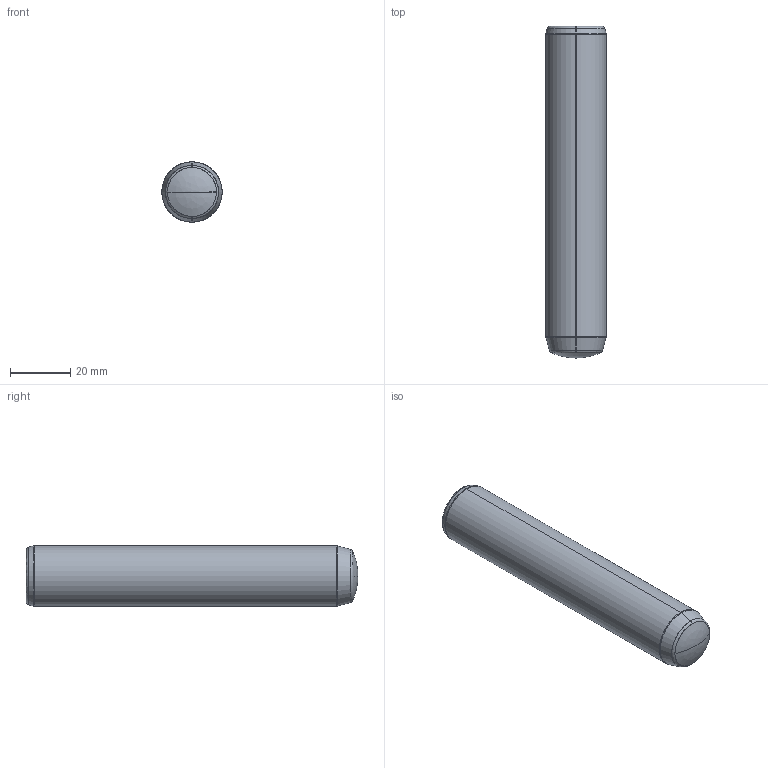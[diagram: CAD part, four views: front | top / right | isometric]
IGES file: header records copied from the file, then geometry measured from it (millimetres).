
Start section: SolidWorks IGES file using analytic representation for surfaces
Global section: file name: D:\Cleonir_arquivos\MT_15_07\Pinos Guia DIN 7979 ISO 8735 com rosca\PG720110.igs; native system: SolidWorks 2013; preprocessor: SolidWorks 2013; author: Cleonir; date: 130730.172412; units: millimetre
Bounding box: 20 x 110 x 20 mm (x, y, z)
Surface area: 8008.4 mm2 (no closed solid volume)
Topology: 0 solids, 0 shells, 277 faces, 2026 edges, 2023 vertices
Faces by surface type: bspline 255, revolution 22
